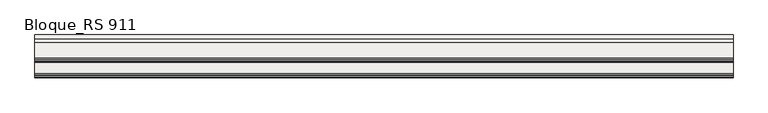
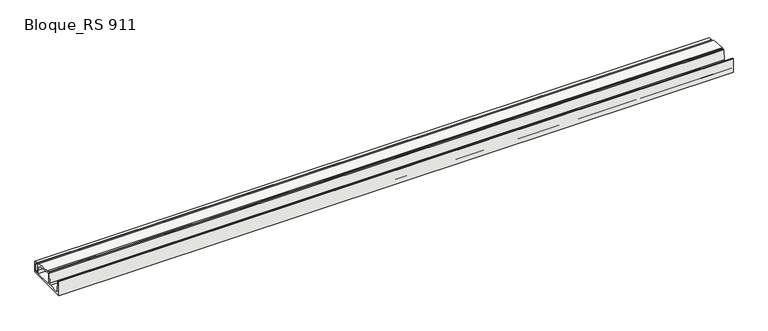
"""IFC4 building model written with IfcOpenShell, lengths in millimetres: slab geometry, ROSA GRES_RS 911 : Bloque_RS 911."""

from ifc_helpers import new_model, si_unit, point, frame, frame_2d, origin, place, context, project, spatial, polyline, circle_curve, trimmed, segment, composite_curve, outline, extrude, source, transform, mapped, element, save


def bloque_rs_911_55d283f2(model_context):
    return source(origin(), model_context, "Body", "SweptSolid", [
        extrude(outline(composite_curve([segment(polyline([(-12.836227, 1.7539108), (-626.836227, 1.7539108), (-626.836227, 216.3460936), (-616.836227, 216.3460936), (-616.836227, 206.3460936), (-598.836227, 206.3460936), (-587.1239808, 55.2086635)]), True, "CONTINUOUS"), segment(trimmed(circle_curve(frame_2d((-567.1837649, 56.7539108)), 20.0), [point((-587.1239808, 55.2086635))], [point((-567.1837649, 36.7539108))], True, "CARTESIAN"), True, "CONTINUOUS"), segment(polyline([(-567.1837649, 36.7539108), (-413.4886891, 36.7539108)]), True, "CONTINUOUS"), segment(trimmed(circle_curve(frame_2d((-413.4886891, 56.7539108)), 20.0), [point((-413.4886891, 36.7539108))], [point((-393.5484732, 55.2086635))], True, "CARTESIAN"), True, "CONTINUOUS"), segment(polyline([(-393.5484732, 55.2086635), (-381.836227, 206.3460936), (-363.836227, 206.3460936), (-363.836227, 216.3460936), (-343.836227, 216.3460936), (-343.836227, 214.7181867), (-123.836227, 196.8112099), (-125.1172881, 181.0724591), (-72.836227, 176.8170239), (-72.836227, 173.8170239), (-67.836227, 173.8170239), (-67.836227, 176.4100471), (-12.836227, 171.9333029), (-12.836227, 1.7539108)]), True, "CONTINUOUS")], self_intersect=False), holes=[composite_curve([segment(polyline([(-67.836227, 140.6431347), (-67.836227, 36.7539108)]), True, "CONTINUOUS"), segment(trimmed(circle_curve(frame_2d((-59.836227, 36.7539108)), 8.0), [point((-67.836227, 36.7539108))], [point((-59.836227, 28.7539108))], True, "CARTESIAN"), True, "CONTINUOUS"), segment(polyline([(-59.836227, 28.7539108), (-47.836227, 28.7539108)]), True, "CONTINUOUS"), segment(trimmed(circle_curve(frame_2d((-47.836227, 36.7539108)), 8.0), [point((-47.836227, 28.7539108))], [point((-39.836227, 36.7539108))], True, "CARTESIAN"), True, "CONTINUOUS"), segment(polyline([(-39.836227, 36.7539108), (-39.836227, 139.6663905)]), True, "CONTINUOUS"), segment(trimmed(circle_curve(frame_2d((-47.836227, 139.6663905)), 8.0), [point((-39.836227, 139.6663905))], [point((-47.1872106, 147.6400206))], True, "CARTESIAN"), True, "CONTINUOUS"), segment(polyline([(-47.1872106, 147.6400206), (-59.1872106, 148.6167648)]), True, "CONTINUOUS"), segment(trimmed(circle_curve(frame_2d((-59.836227, 140.6431347)), 8.0), [point((-59.1872106, 148.6167648))], [point((-67.836227, 140.6431347))], True, "CARTESIAN"), True, "CONTINUOUS")], self_intersect=False), composite_curve([segment(polyline([(-180.4105134, 169.2541533), (-334.6837717, 181.811279)]), True, "CONTINUOUS"), segment(trimmed(circle_curve(frame_2d((-336.3063127, 161.8772036)), 20.0), [point((-334.6837717, 181.811279))], [point((-356.3063127, 161.8772036))], True, "CARTESIAN"), True, "CONTINUOUS"), segment(polyline([(-356.3063127, 161.8772036), (-356.3063127, 28.7539108), (-102.3063127, 28.7539108), (-102.3063127, 84.534333)]), True, "CONTINUOUS"), segment(trimmed(circle_curve(frame_2d((-187.3063127, 84.534333)), 85.0), [point((-102.3063127, 84.534333))], [point((-180.4105134, 169.2541533))], True, "CARTESIAN"), True, "CONTINUOUS")], self_intersect=False)]), frame((0.0, 0.0, 0.0), z_axis=(1.0, 0.0, 0.0), x_axis=(0.0, 1.0, 0.0)), (0.0, 0.0, 1.0), 10002.75),
    ])


if __name__ == "__main__":
    model = new_model("IFC4")
    model_context = context("Model", 3, world=origin())
    ifc_project = project(units=[si_unit("LENGTHUNIT", "METRE", prefix="MILLI")], contexts=[model_context])
    site = spatial("IfcSite", under=ifc_project)
    building = spatial("IfcBuilding", under=site)
    placement = place(None, origin())
    bloque_rs_911_shape = bloque_rs_911_55d283f2(model_context)
    element("IfcSlab", 1, ObjectType="ROSA GRES_RS 911 : Bloque_RS 911", at=placement, inside=building, context=model_context, shape_type="MappedRepresentation", body=[
        mapped(bloque_rs_911_shape, transform((0.0, 0.0, 0.0), x_axis=(1.0, 0.0, 0.0), y_axis=(0.0, 1.0, 0.0), z_axis=(0.0, 0.0, 1.0))),
    ])
    save(model, "model.ifc")
